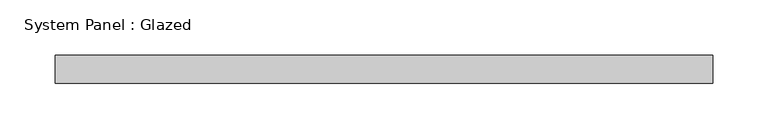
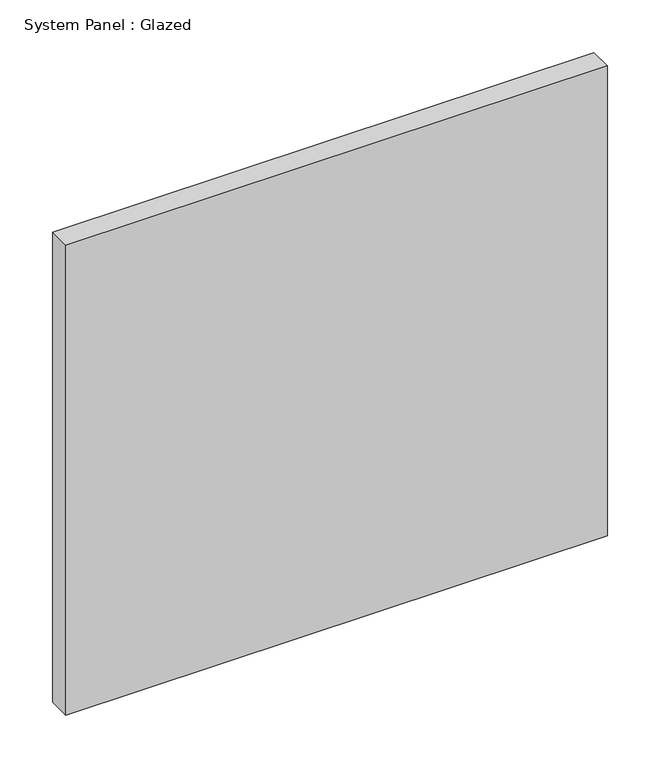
"""IFC4 building model written with IfcOpenShell, lengths in millimetres: plate geometry, System Panel : Glazed."""

from ifc_helpers import new_model, si_unit, origin, origin_with_axes, place, context, project, spatial, polyline, outline, extrude, source, transform, mapped, element, save


def system_panel_glazed_439dd39a(model_context):
    return source(origin(), model_context, "Body", "SweptSolid", [
        extrude(outline(polyline([(297.7, -44.45), (-297.7, -44.45), (-297.7, -19.05), (297.7, -19.05), (297.7, -44.45)])), origin_with_axes(), (0.0, 0.0, 1.0), 546.1),
    ])


if __name__ == "__main__":
    model = new_model("IFC4")
    model_context = context("Model", 3, world=origin())
    ifc_project = project(units=[si_unit("LENGTHUNIT", "METRE", prefix="MILLI")], contexts=[model_context])
    site = spatial("IfcSite", under=ifc_project)
    building = spatial("IfcBuilding", under=site)
    placement = place(None, origin())
    system_panel_glazed_shape = system_panel_glazed_439dd39a(model_context)
    element("IfcPlate", 1, ObjectType="System Panel : Glazed", at=placement, inside=building, context=model_context, shape_type="MappedRepresentation", body=[
        mapped(system_panel_glazed_shape, transform((0.0, 0.0, 0.0), x_axis=(1.0, 0.0, 0.0), y_axis=(0.0, 1.0, 0.0), z_axis=(0.0, 0.0, 1.0))),
    ])
    save(model, "model.ifc")
